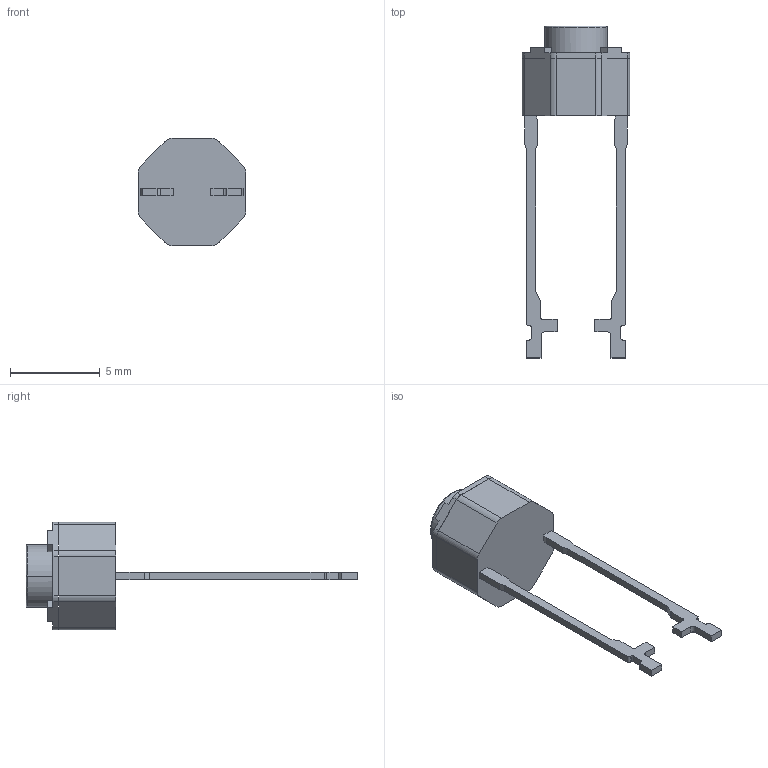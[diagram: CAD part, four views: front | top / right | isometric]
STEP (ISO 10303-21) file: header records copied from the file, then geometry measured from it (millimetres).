
FILE_DESCRIPTION((''),'2;1');
FILE_NAME('ASM0001_ASM','2024-01-06T',('WYH'),(''),'PRO/ENGINEER BY PARAMETRIC TECHNOLOGY CORPORATION, 2013040','PRO/ENGINEER BY PARAMETRIC TECHNOLOGY CORPORATION, 2013040','');
FILE_SCHEMA(('CONFIG_CONTROL_DESIGN'));
Length unit declared in the file: millimetre
Products named in the file (1): ASM0001_ASM
Bounding box: 6 x 18.5 x 6 mm (x, y, z)
Volume: 127.4 mm3; surface area: 260.8 mm2
Topology: 1 solids, 1 shells, 182 faces, 512 edges, 342 vertices
Faces by surface type: plane 125, cylinder 55, torus 2
Entity records: 5913 total; most frequent: CARTESIAN_POINT 1047, ORIENTED_EDGE 1024, DIRECTION 990, EDGE_CURVE 512, VECTOR 394, LINE 394, VERTEX_POINT 342, AXIS2_PLACEMENT_3D 298
